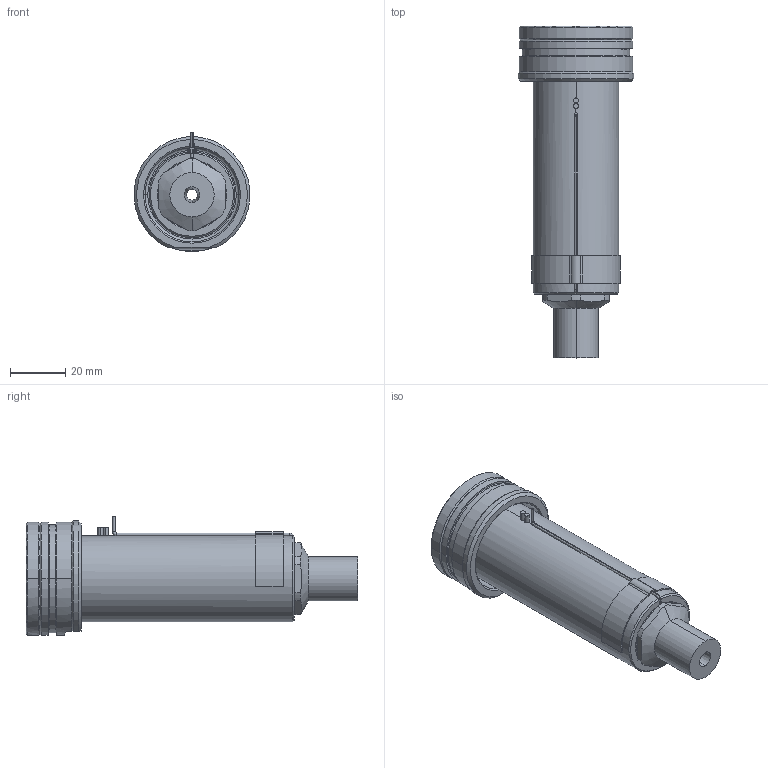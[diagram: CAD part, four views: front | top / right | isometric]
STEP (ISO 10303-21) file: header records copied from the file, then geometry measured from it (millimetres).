
FILE_DESCRIPTION((''),'2;1');
FILE_NAME('EO12_VG-FBE_STD_090_SW','2024-02-19T14:03:52',('sundharh'),(''),'CREO PARAMETRIC BY PTC INC, 2023154','CREO PARAMETRIC BY PTC INC, 2023154','');
FILE_SCHEMA(('CONFIG_CONTROL_DESIGN'));
Length unit declared in the file: millimetre
Products named in the file (1): EO12_VG-FBE_STD_090_SW
Bounding box: 41.85 x 120 x 43 mm (x, y, z)
Volume: 76015.3 mm3; surface area: 23214.8 mm2
Topology: 2 solids, 3 shells, 212 faces, 523 edges, 316 vertices
Faces by surface type: cylinder 73, plane 48, cone 43, torus 37, bspline 9, sphere 2
Entity records: 7115 total; most frequent: CARTESIAN_POINT 1972, DIRECTION 1152, ORIENTED_EDGE 1042, EDGE_CURVE 521, AXIS2_PLACEMENT_3D 487, VERTEX_POINT 316, CIRCLE 284, EDGE_LOOP 229
